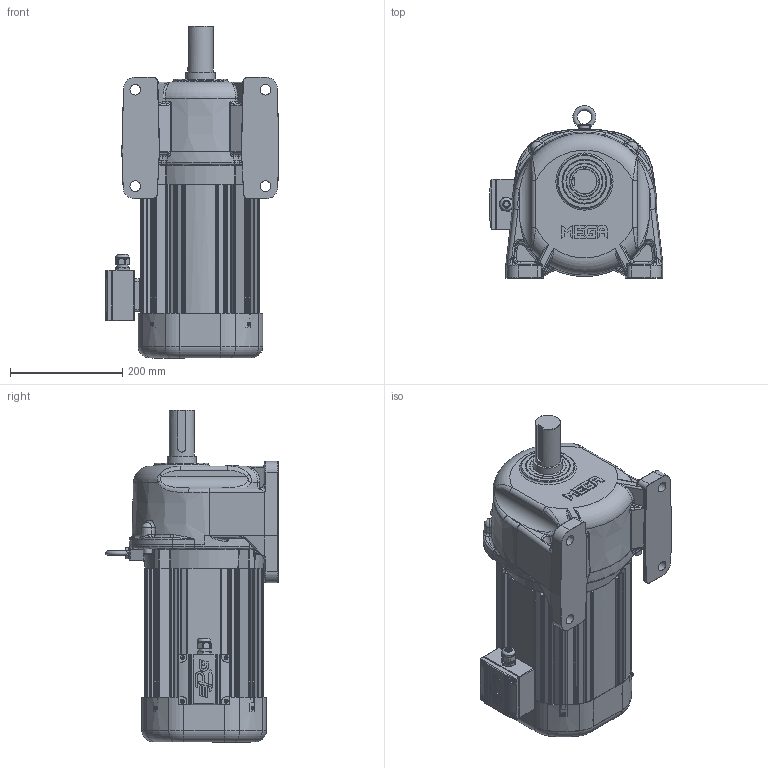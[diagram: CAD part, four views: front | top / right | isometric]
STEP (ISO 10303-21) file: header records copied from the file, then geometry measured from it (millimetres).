
FILE_DESCRIPTION(/* description */ (''),/* implementation_level */ '2;1');
FILE_NAME(/* name */ 'Z:\동력 3D 파일\PML172_3.7kW_3D.stp',/* time_stamp */ '2021-11-30T16:00:00+09:00',/* author */ ('jaebok'),/* organization */ (''),/* preprocessor_version */ 'ST-DEVELOPER v18.1',/* originating_system */ 'Autodesk Inventor 2022',/* authorisation */ '');
FILE_SCHEMA (('AUTOMOTIVE_DESIGN { 1 0 10303 214 3 1 1 }'));
Length unit declared in the file: millimetre
Products named in the file (1): 부품18
Bounding box: 310 x 307.49 x 591.5 mm (x, y, z)
Volume: 6538818.5 mm3; surface area: 1480140.6 mm2
Topology: 7 solids, 36 shells, 3270 faces, 8297 edges, 5042 vertices
Faces by surface type: plane 1000, cylinder 952, bspline 765, torus 339, cone 146, sphere 68
Full cylindrical faces by diameter (mm): 3.25 x1, 3.6 x4, 4 x21, 4.5 x4, 5 x18, 6 x5, 6.8 x4, 7 x8, 8 x9, 8.4 x4, 8.8 x1, 9 x4, 10 x10, 10.2 x1, 11 x4, 12 x2, 12.5 x1, 15 x1, 16 x4, 19 x4, 20 x2, 21 x1, 23.6 x1, 25 x2, 26 x1, 31 x1, 36 x2, 45 x1, 48 x1, 50 x2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
Entity records: 128188 total; most frequent: CARTESIAN_POINT 50277, ORIENTED_EDGE 16290, DIRECTION 14630, EDGE_CURVE 8145, AXIS2_PLACEMENT_3D 5900, VERTEX_POINT 5046, EDGE_LOOP 3507, FACE_OUTER_BOUND 3270
